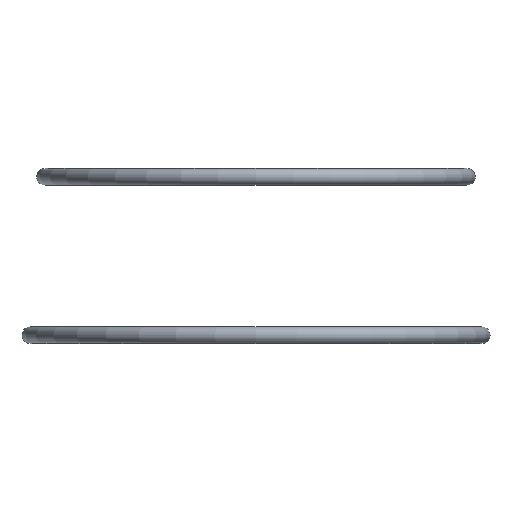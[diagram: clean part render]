
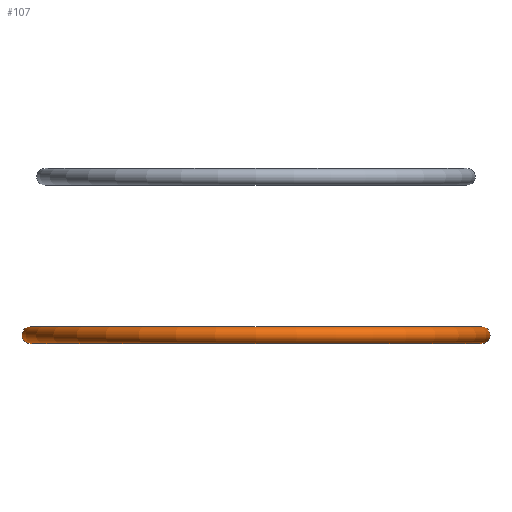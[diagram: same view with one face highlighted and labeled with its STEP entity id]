
A CAD part, front view. The second image highlights one B-rep face of the part: STEP entity #107.
In plain terms, the highlighted toroidal (fillet/blend) face has major radius 31.115 mm and minor radius 1.143 mm.
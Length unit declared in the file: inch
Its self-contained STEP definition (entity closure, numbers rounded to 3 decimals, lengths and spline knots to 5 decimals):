
#7=CARTESIAN_POINT('',(1.225,0.,0.045));
#8=DIRECTION('',(0.,1.,0.));
#9=DIRECTION('',(0.,0.,1.));
#10=AXIS2_PLACEMENT_3D('',#7,#8,#9);
#12=CARTESIAN_POINT('',(-1.225,0.,0.045));
#13=DIRECTION('',(0.,-1.,0.));
#14=DIRECTION('',(0.,0.,1.));
#15=AXIS2_PLACEMENT_3D('',#12,#13,#14);
#17=CARTESIAN_POINT('',(0.,0.,0.09));
#18=DIRECTION('',(0.,0.,-1.));
#19=DIRECTION('',(1.,0.,0.));
#20=AXIS2_PLACEMENT_3D('',#17,#18,#19);
#22=CARTESIAN_POINT('',(0.,0.,0.));
#23=DIRECTION('',(0.,0.,-1.));
#24=DIRECTION('',(1.,0.,0.));
#25=AXIS2_PLACEMENT_3D('',#22,#23,#24);
#62=CARTESIAN_POINT('',(1.225,0.,0.09));
#63=CARTESIAN_POINT('',(1.225,0.,0.));
#64=VERTEX_POINT('',#62);
#65=VERTEX_POINT('',#63);
#70=CARTESIAN_POINT('',(-1.225,0.,0.09));
#71=CARTESIAN_POINT('',(-1.225,0.,0.));
#72=VERTEX_POINT('',#70);
#73=VERTEX_POINT('',#71);
#94=CARTESIAN_POINT('',(0.,0.,0.045));
#95=DIRECTION('',(0.,0.,1.));
#96=DIRECTION('',(-1.,0.,0.));
#97=AXIS2_PLACEMENT_3D('',#94,#95,#96);
#98=TOROIDAL_SURFACE('',#97,1.225,0.045);
#99=ORIENTED_EDGE('',*,*,#83,.T.);
#101=ORIENTED_EDGE('',*,*,#100,.T.);
#102=ORIENTED_EDGE('',*,*,#87,.F.);
#104=ORIENTED_EDGE('',*,*,#103,.F.);
#105=EDGE_LOOP('',(#99,#101,#102,#104));
#106=FACE_OUTER_BOUND('',#105,.F.);
#107=ADVANCED_FACE('',(#106),#98,.T.);
#11=CIRCLE('',#10,0.045);
#16=CIRCLE('',#15,0.045);
#21=CIRCLE('',#20,1.225);
#26=CIRCLE('',#25,1.225);
#83=EDGE_CURVE('',#64,#65,#11,.T.);
#87=EDGE_CURVE('',#72,#73,#16,.T.);
#100=EDGE_CURVE('',#65,#73,#26,.T.);
#103=EDGE_CURVE('',#64,#72,#21,.T.);
